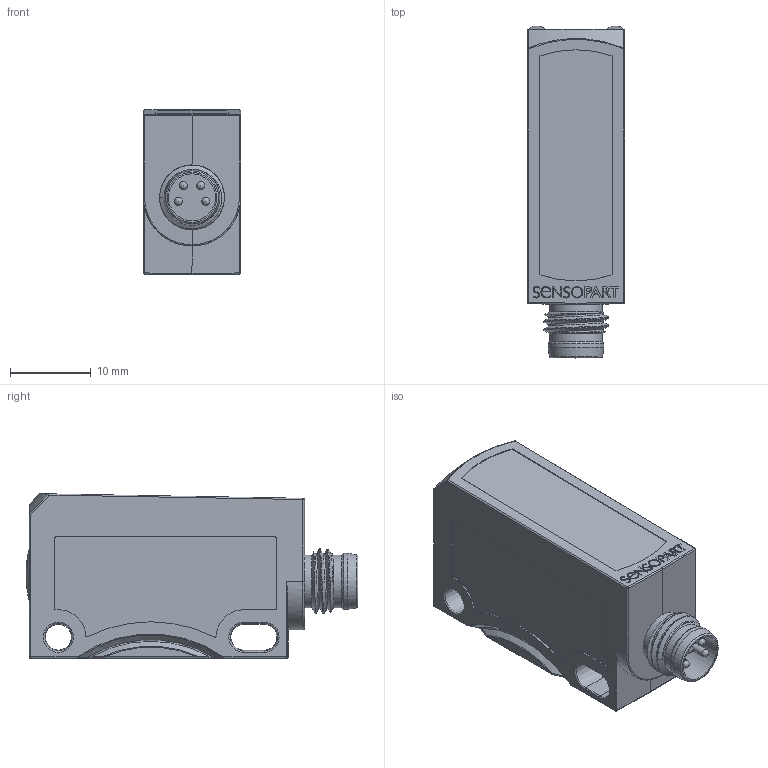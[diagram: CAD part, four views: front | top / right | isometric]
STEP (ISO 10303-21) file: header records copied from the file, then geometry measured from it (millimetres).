
FILE_DESCRIPTION(/* description */ ('','CAx-IF Rec.Pracs.---Representation and Presentation of Product Manufacturing Information (PMI)---3.8---2014-02-18'),/* implementation_level */ '2;1');
FILE_NAME(/* name */ 'C:\#Vault-WorkDir\Konstruktions-Dokumente\Test-User\Haessler\F25-zbau-test.stp',/* time_stamp */ '2016-10-17T13:12:37+02:00',/* author */ ('juergen.haessler'),/* organization */ (''),/* preprocessor_version */ 'ST-DEVELOPER v16.1',/* originating_system */ 'Autodesk Inventor 2016',/* authorisation */ '');
FILE_SCHEMA (('AP242_MANAGED_MODEL_BASED_3D_ENGINEERING_MIM_LF { 1 0 10303 442 1 1 4 }'));
Length unit declared in the file: millimetre
Products named in the file (1): F25-vereinfacht
Bounding box: 12 x 41 x 20.33 mm (x, y, z)
Volume: 7760.7 mm3; surface area: 3268.4 mm2
Topology: 1 solids, 4 shells, 265 faces, 639 edges, 384 vertices
Faces by surface type: plane 114, cylinder 71, bspline 29, sphere 22, cone 16, torus 13
Full cylindrical faces by diameter (mm): 1 x4, 1.215 x1, 1.422 x1, 5.8 x1, 6.5 x2, 6.9 x1
Entity records: 8764 total; most frequent: CARTESIAN_POINT 2734, DIRECTION 1189, ORIENTED_EDGE 1178, EDGE_CURVE 589, AXIS2_PLACEMENT_3D 430, VERTEX_POINT 373, LINE 329, VECTOR 329
